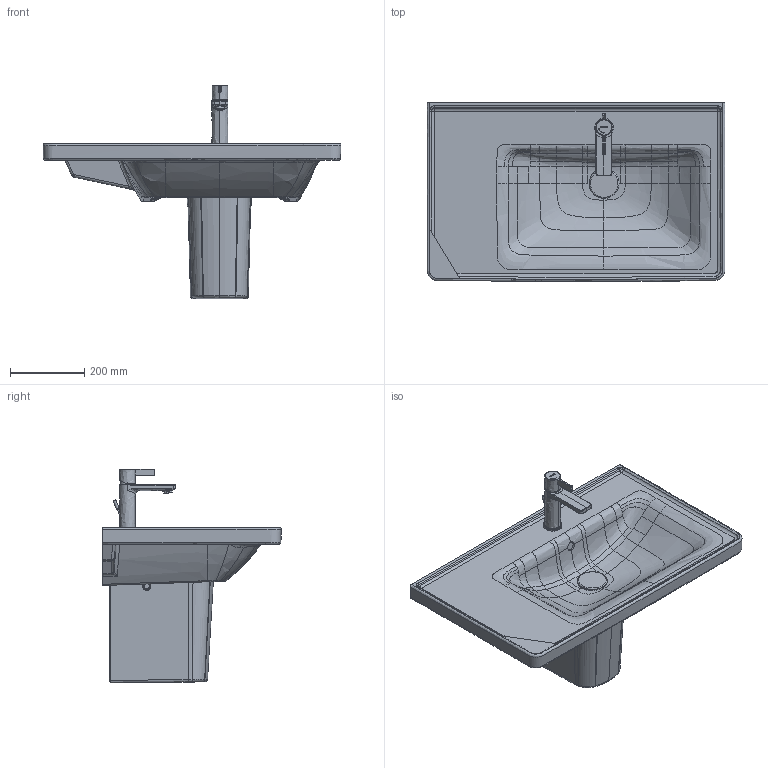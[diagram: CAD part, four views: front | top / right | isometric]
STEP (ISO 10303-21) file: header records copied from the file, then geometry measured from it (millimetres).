
FILE_DESCRIPTION(/* description */ (''),/* implementation_level */ '2;1');
FILE_NAME(/* name */ '237080_085843',/* time_stamp */ '2021-06-21T12:17:38+02:00',/* author */ (''),/* organization */ (''),/* preprocessor_version */ 'ST-DEVELOPER v15',/* originating_system */ '',/* authorisation */ '');
FILE_SCHEMA (('AUTOMOTIVE_DESIGN'));
Length unit declared in the file: millimetre
Products named in the file (1): Document
Bounding box: 800.17 x 479.99 x 574.79 mm (x, y, z)
Volume: 18608659.4 mm3; surface area: 1707514.4 mm2
Topology: 7 solids, 12 shells, 695 faces, 1678 edges, 1021 vertices
Faces by surface type: bspline 535, plane 160
Entity records: 93029 total; most frequent: CARTESIAN_POINT 82584, ORIENTED_EDGE 3322, EDGE_CURVE 1668, B_SPLINE_CURVE_WITH_KNOTS 1351, VERTEX_POINT 1021, EDGE_LOOP 741, ADVANCED_FACE 695, FACE_OUTER_BOUND 695
